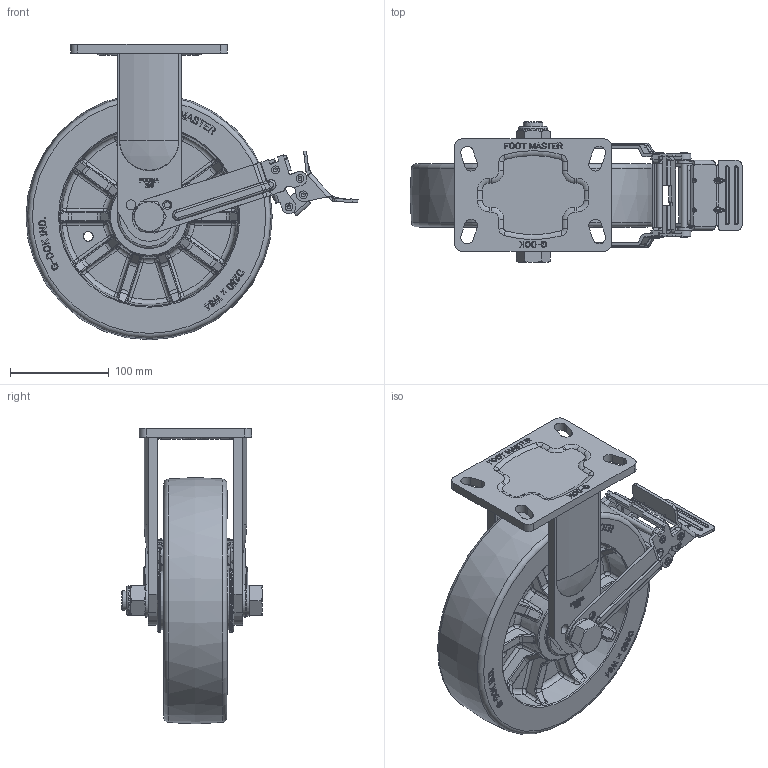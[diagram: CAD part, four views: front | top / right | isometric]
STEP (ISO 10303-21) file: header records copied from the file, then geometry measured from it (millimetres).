
FILE_DESCRIPTION(/* description */ (''),/* implementation_level */ '2;1');
FILE_NAME(/* name */ 'E:\개발도면\GF-SERIES\GF-250\인벤터\홈페이지용 도면-20150310\STEP\GF-250-BRF-MUD.stp',/* time_stamp */ '2015-03-17T19:58:28+09:00',/* author */ ('장용하'),/* organization */ (''),/* preprocessor_version */ 'ST-DEVELOPER v15.6',/* originating_system */ 'Autodesk Inventor 2015',/* authorisation */ '');
FILE_SCHEMA (('AUTOMOTIVE_DESIGN { 1 0 10303 214 3 1 1 }'));
Products named in the file (1): GF-250-BRF-MUD
Bounding box: 337.04 x 143 x 299.98 mm (x, y, z)
Volume: 2629120.9 mm3; surface area: 371748 mm2
Topology: 4 solids, 9 shells, 2779 faces, 7177 edges, 4486 vertices
Faces by surface type: plane 994, bspline 933, cylinder 660, torus 134, cone 42, sphere 16
Full cylindrical faces by diameter (mm): 4 x4, 6 x4, 6.2 x18, 7 x2, 8 x8, 9.7 x2, 10 x4, 20 x5, 20.2 x4, 24.9 x2, 30 x1, 34 x2, 43 x2, 64.519 x2
Entity records: 96748 total; most frequent: CARTESIAN_POINT 32780, ORIENTED_EDGE 14022, DIRECTION 10933, EDGE_CURVE 7007, VERTEX_POINT 4456, AXIS2_PLACEMENT_3D 3773, LINE 3387, VECTOR 3387
